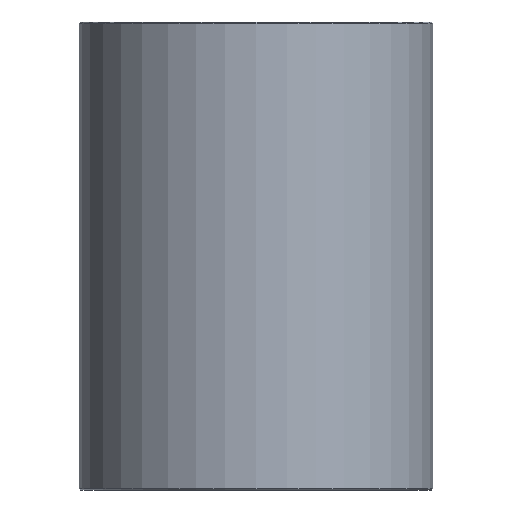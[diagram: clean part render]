
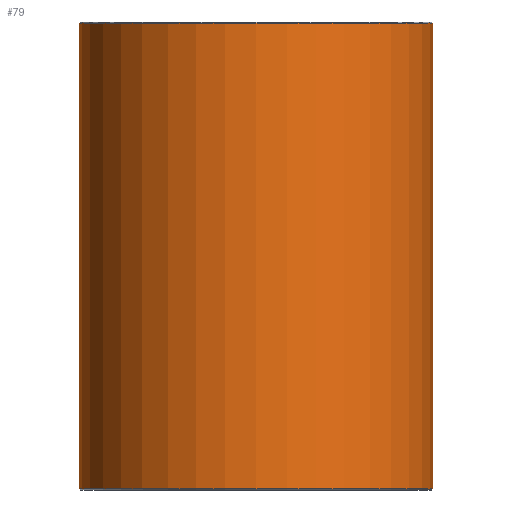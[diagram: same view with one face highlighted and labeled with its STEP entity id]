
A CAD part, front view. The second image highlights one B-rep face of the part: STEP entity #79.
In plain terms, the highlighted cylindrical face has radius 34 mm (diameter 68 mm), a full revolution.
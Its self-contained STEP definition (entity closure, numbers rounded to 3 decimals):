
#79=ADVANCED_FACE('',(#96,#97),#98,.T.);
#96=FACE_OUTER_BOUND('',#120,.T.);
#97=FACE_OUTER_BOUND('',#121,.T.);
#98=CYLINDRICAL_SURFACE('',#122,34.0);
#120=EDGE_LOOP('',(#152));
#121=EDGE_LOOP('',(#153));
#122=AXIS2_PLACEMENT_3D('',#154,#155,#156);
#152=ORIENTED_EDGE('',*,*,#178,.T.);
#153=ORIENTED_EDGE('',*,*,#177,.T.);
#154=CARTESIAN_POINT('',(0.0,0.0,90.0));
#155=DIRECTION('',(0.0,0.0,-1.0));
#156=DIRECTION('',(-1.0,0.0,0.0));
#177=EDGE_CURVE('',#190,#190,#191,.T.);
#178=EDGE_CURVE('',#192,#192,#193,.F.);
#190=VERTEX_POINT('',#206);
#191=CIRCLE('',#207,34.0);
#192=VERTEX_POINT('',#208);
#193=CIRCLE('',#209,34.0);
#206=CARTESIAN_POINT('',(34.0,0.0,0.2));
#207=AXIS2_PLACEMENT_3D('',#227,#228,#229);
#208=CARTESIAN_POINT('',(34.0,0.,89.8));
#209=AXIS2_PLACEMENT_3D('',#230,#231,#232);
#227=CARTESIAN_POINT('',(0.0,0.0,0.2));
#228=DIRECTION('',(0.0,0.0,1.0));
#229=DIRECTION('',(1.0,0.0,0.0));
#230=CARTESIAN_POINT('',(0.0,0.0,89.8));
#231=DIRECTION('',(0.0,0.0,1.0));
#232=DIRECTION('',(1.0,0.0,0.0));
